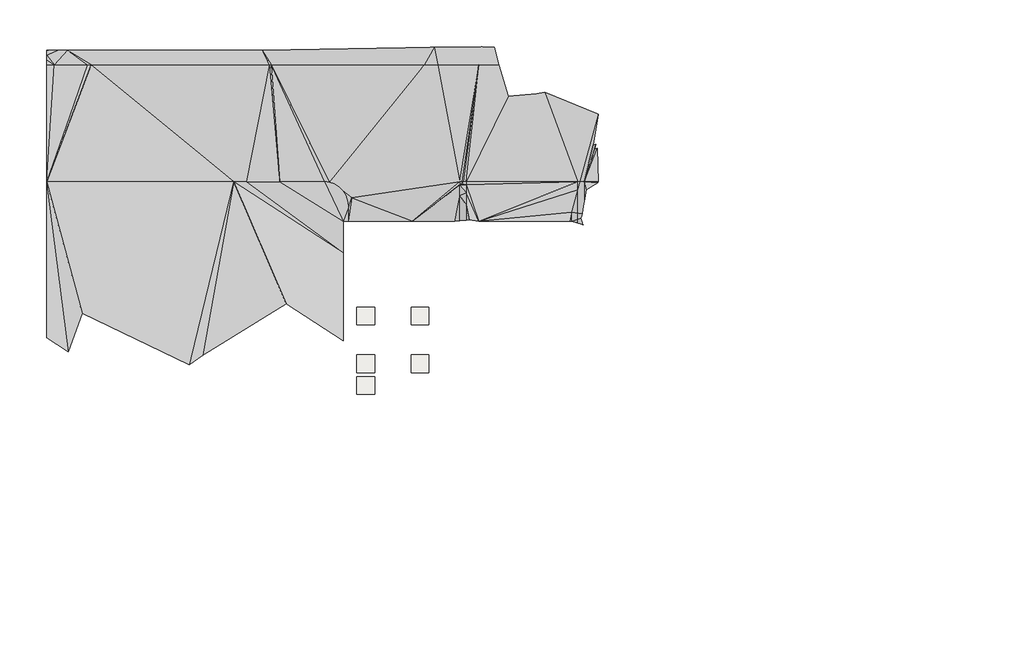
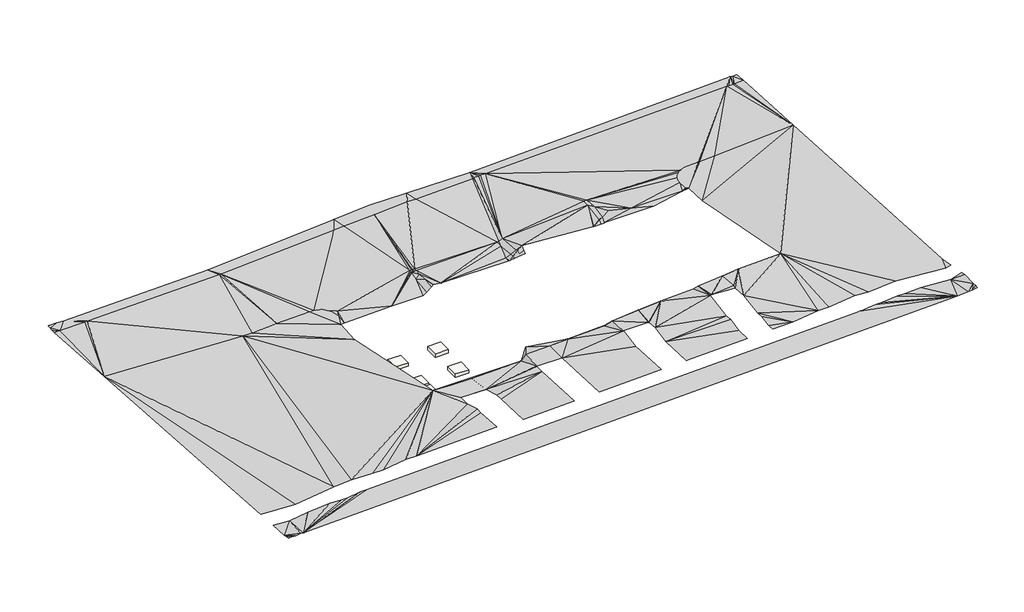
# One storey: 5 slabs, 2 proxies.
"""IFC4 building model written with IfcOpenShell, lengths in millimetres."""

import ifcopenshell
import ifcopenshell.guid

model = None  # the IFC model being written
_history = None  # IfcOwnerHistory: only IFC2X3 demands one
_inside = {}  # id of a spatial element -> (the spatial element, [elements in it])
_under = {}  # id of a project, library or spatial element -> (it, [spatial elements below it])
_declared = {}  # id of a project -> (the project, [libraries it declares])
_typed = {}  # id of a type object -> (the type object, [elements of that type])
_made_of = {}  # id of a material, layer set ... -> (it, [elements and type objects made of it])


def new_model(schema):
    """Start an empty IFC model of exactly this schema.

    Asked for "IFC4X3", IfcOpenShell would pick the latest addendum, in which some entities
    have other attributes; the version numbers below select the first issue.
    IFC2X3 requires an IfcOwnerHistory on every rooted entity: one is made here for all.
    """
    global model, _history
    if schema == "IFC4X3":
        model = ifcopenshell.file(schema_version=(4, 3, 0, 0))
    else:
        model = ifcopenshell.file(schema=schema)
    _inside.clear()
    _under.clear()
    _declared.clear()
    _typed.clear()
    _made_of.clear()
    _history = None
    if model.schema == "IFC2X3":
        org = make("IfcOrganization", Name="unknown")
        user = make(
            "IfcPersonAndOrganization",
            ThePerson=make("IfcPerson", FamilyName="unknown"),
            TheOrganization=org,
        )
        app = make(
            "IfcApplication",
            ApplicationDeveloper=org,
            Version="unknown",
            ApplicationFullName="unknown",
            ApplicationIdentifier="unknown",
        )
        _history = make(
            "IfcOwnerHistory",
            OwningUser=user,
            OwningApplication=app,
            ChangeAction="ADDED",
            CreationDate=0,
        )
    return model


def make(cls, **values):
    """One entity of the class cls with the attributes given. An attribute that is None is left unset."""
    return model.create_entity(
        cls, **{name: value for name, value in values.items() if value is not None}
    )


def rooted(cls, **values):
    """An entity with a GlobalId (a new one), such as an element, a storey or a relation."""
    return make(cls, GlobalId=ifcopenshell.guid.new(), OwnerHistory=_history, **values)


def si_unit(unit_type, name, prefix=None):
    """IfcSIUnit, for example si_unit("LENGTHUNIT", "METRE", prefix="MILLI")."""
    return make("IfcSIUnit", UnitType=unit_type, Prefix=prefix, Name=name)


def assignment(units):
    """IfcUnitAssignment: the units of a project."""
    return None if units is None else make("IfcUnitAssignment", Units=units)


def point(xyz):
    """IfcCartesianPoint."""
    return None if xyz is None else make("IfcCartesianPoint", Coordinates=xyz)


def direction(xyz):
    """IfcDirection."""
    return None if xyz is None else make("IfcDirection", DirectionRatios=xyz)


def frame(location, z_axis=None, x_axis=None):
    """IfcAxis2Placement3D, a coordinate frame: its origin and axes. An axis left out is left unset."""
    return make(
        "IfcAxis2Placement3D",
        Location=point(location),
        Axis=direction(z_axis),
        RefDirection=direction(x_axis),
    )


def origin():
    """The frame at (0, 0, 0) with its axes left unset."""
    return frame((0.0, 0.0, 0.0))


def place(relative_to, where):
    """IfcLocalPlacement: puts the frame where relative to a parent placement (None: the world)."""
    return make(
        "IfcLocalPlacement", PlacementRelTo=relative_to, RelativePlacement=where
    )


def context(
    kind, dimensions, precision=None, world=None, true_north=None, identifier=None
):
    """IfcGeometricRepresentationContext, for example the 3D "Model" context."""
    return make(
        "IfcGeometricRepresentationContext",
        ContextIdentifier=identifier,
        ContextType=kind,
        CoordinateSpaceDimension=dimensions,
        Precision=precision,
        WorldCoordinateSystem=world,
        TrueNorth=true_north,
    )


def project(units=None, contexts=None):
    """IfcProject with its units and contexts."""
    return rooted(
        "IfcProject",
        Name="project",
        RepresentationContexts=contexts,
        UnitsInContext=assignment(units),
    )


def spatial(cls, under=None, at=None, **own):
    """A site, building, storey or space (cls), placed at a placement, below another one or the project."""
    s = rooted(cls, ObjectPlacement=at, **own)
    if under is not None:
        _under.setdefault(under.id(), (under, []))[1].append(s)
    return s


def polyline(points):
    """IfcPolyline through the points."""
    return make("IfcPolyline", Points=[point(p) for p in points])


def point_list(points):
    """IfcCartesianPointList2D or 3D."""
    cls = (
        "IfcCartesianPointList2D" if len(points[0]) == 2 else "IfcCartesianPointList3D"
    )
    return make(cls, CoordList=points)


def outline(outer, holes=None, kind="AREA"):
    """IfcArbitraryClosedProfileDef: a profile drawn as a closed curve; with holes, ...WithVoids."""
    if holes is None:
        return make("IfcArbitraryClosedProfileDef", ProfileType=kind, OuterCurve=outer)
    return make(
        "IfcArbitraryProfileDefWithVoids",
        ProfileType=kind,
        OuterCurve=outer,
        InnerCurves=holes,
    )


def extrude(swept, where, along, depth):
    """IfcExtrudedAreaSolid: the profile swept, set in the frame where, extruded along a direction by depth."""
    return make(
        "IfcExtrudedAreaSolid",
        SweptArea=swept,
        Position=where,
        ExtrudedDirection=direction(along),
        Depth=depth,
    )


def triangles(points, corners, closed=None, point_numbers=None):
    """IfcTriangulatedFaceSet: each triangle names its three corners, points numbered from 1."""
    return make(
        "IfcTriangulatedFaceSet",
        Coordinates=point_list(points),
        Closed=closed,
        CoordIndex=corners,
        PnIndex=point_numbers,
    )


def shape(context_of_items, identifier, shape_type, items):
    """IfcShapeRepresentation: the items that make up one representation, for example the "Body"."""
    return make(
        "IfcShapeRepresentation",
        ContextOfItems=context_of_items,
        RepresentationIdentifier=identifier,
        RepresentationType=shape_type,
        Items=items,
    )


def source(mapping_origin, context_of_items, identifier, shape_type, items):
    """IfcRepresentationMap: a shape defined once, which mapped items show again and again."""
    return make(
        "IfcRepresentationMap",
        MappingOrigin=mapping_origin,
        MappedRepresentation=shape(context_of_items, identifier, shape_type, items),
    )


def transform(
    local_origin,
    x_axis=None,
    y_axis=None,
    z_axis=None,
    scale=None,
    scale2=None,
    scale3=None,
    uniform=True,
):
    """IfcCartesianTransformationOperator3D, or its non-uniform kind. x_axis, y_axis, z_axis: its Axis1, 2, 3."""
    if uniform:
        return make(
            "IfcCartesianTransformationOperator3D",
            Axis1=direction(x_axis),
            Axis2=direction(y_axis),
            LocalOrigin=point(local_origin),
            Scale=scale,
            Axis3=direction(z_axis),
        )
    return make(
        "IfcCartesianTransformationOperator3DnonUniform",
        Axis1=direction(x_axis),
        Axis2=direction(y_axis),
        LocalOrigin=point(local_origin),
        Scale=scale,
        Axis3=direction(z_axis),
        Scale2=scale2,
        Scale3=scale3,
    )


def mapped(mapping_source, mapping_target):
    """IfcMappedItem: shows the shape of a source again, moved by a transform."""
    return make(
        "IfcMappedItem", MappingSource=mapping_source, MappingTarget=mapping_target
    )


def made_of(thing, what):
    """Note that an element or type object is made of a material, layer set ...; save() writes the relation."""
    if what is not None:
        _made_of.setdefault(what.id(), (what, []))[1].append(thing)
    return thing


def element(
    cls,
    number,
    at=None,
    inside=None,
    cuts=None,
    type_object=None,
    material=None,
    context=None,
    identifier="Body",
    shape_type=None,
    held_by="IfcProductDefinitionShape",
    body=None,
    shapes=None,
    **own,
):
    """One element of the class cls, such as IfcWall. Its Tag is "e" and its number.

    at: its placement. inside: the storey or other place that contains it. cuts: it is an
    opening in that element (IfcRelVoidsElement). A single representation is given by context,
    identifier, shape_type and body (its items); several are given by shapes. held_by: the class
    of the entity that holds the representations. save() writes the other relations.
    """
    e = rooted(cls, Tag="e%d" % number, ObjectPlacement=at, **own)
    if body is not None:
        shapes = [shape(context, identifier, shape_type, body)]
    if shapes is not None:
        e.Representation = make(held_by, Representations=shapes)
    if inside is not None:
        _inside.setdefault(inside.id(), (inside, []))[1].append(e)
    if cuts is not None:
        rooted(
            "IfcRelVoidsElement", RelatingBuildingElement=cuts, RelatedOpeningElement=e
        )
    if type_object is not None:
        _typed.setdefault(type_object.id(), (type_object, []))[1].append(e)
    return made_of(e, material)


def aggregate(whole, parts):
    """IfcRelAggregates: a whole, such as a stair, and the parts it consists of."""
    return rooted("IfcRelAggregates", RelatingObject=whole, RelatedObjects=parts)


def save(model, path):
    """Write the relations noted so far, then the file.

    IfcRelAggregates (storeys below a building ...), IfcRelContainedInSpatialStructure (elements
    in a storey), IfcRelDefinesByType, IfcRelAssociatesMaterial and IfcRelDeclares: one each for
    every whole, place, type object, material and project.
    """
    for whole, parts in _under.values():
        aggregate(whole, parts)
    for where, things in _inside.values():
        rooted(
            "IfcRelContainedInSpatialStructure",
            RelatedElements=things,
            RelatingStructure=where,
        )
    for kind, things in _typed.values():
        rooted("IfcRelDefinesByType", RelatedObjects=things, RelatingType=kind)
    for what, things in _made_of.values():
        rooted("IfcRelAssociatesMaterial", RelatedObjects=things, RelatingMaterial=what)
    for by, libraries in _declared.values():
        rooted("IfcRelDeclares", RelatingContext=by, RelatedDefinitions=libraries)
    model.write(path)


def slab_c4e9b2b2(model_context):
    return source(origin(), model_context, "Body", "SweptSolid", [
        extrude(outline(polyline([(558.8, 558.8), (558.8, -558.8), (-558.8, -558.8), (-558.8, 558.8), (558.8, 558.8)])), frame((0.0, 0.0, -304.8), z_axis=(0.0, 0.0, 1.0), x_axis=(1.0, 0.0, 0.0)), (0.0, 0.0, 1.0), 304.8),
    ])


model = new_model("IFC4")

# Units and contexts
model_context = context("Model", 3, world=origin())
ifc_project = project(units=[si_unit("LENGTHUNIT", "METRE", prefix="MILLI")], contexts=[model_context])

# Site, building, storey
site = spatial("IfcSite", under=ifc_project)
building = spatial("IfcBuilding", under=site)
storey = spatial("IfcBuildingStorey", under=building, Name="A - B.O. Footing", Elevation=-3079.75)

# Proxies
placement = place(None, origin())
element("IfcBuildingElementProxy", 1, Name="Building Element Proxy", at=placement, inside=storey, context=model_context, shape_type="Tessellation", body=[
    triangles([(-11201.6941681, 6158.271199, -2871.6253006), (-7176.6433411, 6158.271199, -2743.2), (-4520.8749229, 6158.271199, -2767.9798828), (-4211.1630135, 6182.3737976, -2549.632164), (-4211.1630135, 7751.7419586, -2335.3873924), (-4211.1630135, 8386.4817032, -2161.9181843), (-4211.1630135, 8476.380867, -2146.3489311), (-4211.1630135, 8630.1982224, -2143.0838688), (-4094.3989197, 8630.1982224, -2133.0997398), (-4047.3253395, 8630.1982224, -2130.3448208), (-3996.5336723, 8630.1982224, -2127.3191334), (-3808.1945869, 8630.1982224, -2128.998246), (-3808.1945869, 8428.0088196, -2139.3291561), (-3808.1945869, 7920.9368637, -2139.8403168), (-3808.1945869, 7180.1977753, -2133.6), (-3808.1945869, 6213.7335114, -2265.5384583), (-3621.0487427, 6228.2977386, -2133.6), (-3014.5139626, 6158.271199, -2159.0000484), (2697.0525261, 6158.271199, -2196.2112946), (2817.8367233, 6158.271199, -2192.2236019), (3117.1690338, 6056.6710052, -2059.970192), (3189.5053162, 6056.6710052, -2024.2598717), (3189.5053162, 6273.0822144, -1991.2050579), (3189.5053162, 6659.5336258, -2053.2601364), (3189.5053162, 8103.6867554, -2193.8490841), (3189.5053162, 8630.1982224, -2162.5352978), (3333.231427, 8630.1982224, -2158.982753), (3599.3369865, 8630.1982224, -1999.5289684), (3599.3369865, 6602.7870895, -1802.1594749), (3599.3369865, 6399.6826263, -1769.5456226), (3599.3369865, 6056.6710052, -1821.9374828), (3961.2590813, 6056.6710052, -1643.2667027), (4053.3328217, 6539.9258102, -1524.0), (9895.2041473, 6158.271199, -1627.1896317), (9945.452243, 6158.271199, -1624.6261253), (10520.8368896, 6089.2684341, -1561.8021984), (10520.8368896, 6311.6513718, -1338.3156944), (10520.8368896, 6319.3747375, -1325.3773853), (10520.8368896, 8018.6099716, -1018.1334211), (10520.8368896, 8630.1982224, -1066.2368803), (10784.1057037, 8630.1982224, -1070.1500135), (10784.1057037, 7561.2913742, -986.0768749), (10784.1057037, 6387.1676926, -1198.3738729), (10784.1057037, 6381.830809, -1207.3138796), (10784.1057037, 6057.6959427, -1533.0570053), (10792.6528564, 6056.6710052, -1532.1237774), (13054.5415375, 6056.6710052, -1012.5556366), (17386.4608429, 6056.6710052, -1004.9598066), (17781.8053162, 6124.8342865, -989.970896), (17781.8053162, 6169.4460983, -980.6147083), (17781.8053162, 6322.3216507, -992.6389017), (17781.8053162, 7106.1982224, -1010.5865707), (17820.0146118, 7445.3199646, -1017.1168407), (17932.7286621, 7767.4369308, -1020.8511332), (18114.2943237, 8056.3966187, -1021.6021048), (18355.6063385, 8297.7092148, -1019.3321852), (18644.5666077, 8479.2748764, -1014.1551756), (18966.6829926, 8591.9883453, -1006.3305805), (19305.8053162, 8630.1982224, -996.2509632), (20215.27771, 8630.1982224, -966.8725965), (20268.4814392, 8630.1982224, -967.3764175), (20348.3626099, 8630.1982224, -966.8725965), (21584.380188, 8630.1982224, -914.4), (28255.124176, 8630.1982224, -441.583148), (28255.124176, 15945.397641, -861.4523598), (27508.1116333, 15945.397641, -914.4), (27369.6991516, 15945.397641, -920.2760221), (27053.4207825, 15945.397641, -922.2708858), (26842.773175, 15945.397641, -920.2760221), (6405.9386398, 15945.397641, -1580.4398689), (5957.5590317, 15945.397641, -1573.7753048), (5838.3982819, 15945.397641, -1625.7116695), (5424.1840302, 15945.397641, -1618.1955585), (5330.121167, 15945.397641, -1674.55956), (509.2640096, 15945.397641, -1793.7163857), (-199.4013825, 15945.397641, -1787.3986027), (-2999.0573479, 15945.397641, -1954.173452), (-5593.7713531, 15945.397641, -2106.024939), (-6421.0162079, 15945.397641, -2176.7600109), (-16023.468457, 15945.397641, -2743.2), (-16145.231955, 15945.397641, -2755.669297), (-27314.7373901, 15945.397641, -3000.5183052), (-27547.5534119, 15945.397641, -3013.8067383), (-29640.186145, 15945.397641, -3048.0), (-30114.075824, 15945.397641, -3027.3582367), (-30114.075824, 8630.1982224, -2536.6986511), (-18375.7667358, 8630.1982224, -3048.0), (-17583.5650909, 8630.1982224, -3035.0554413), (-15504.5280396, 8630.1982224, -2916.3917542), (-12732.8634979, 8630.1982224, -2855.6335442), (-12680.6713348, 8624.3177673, -2854.630117), (-12393.7411743, 8591.9883453, -2827.2501022), (-12071.6236267, 8479.2748764, -2801.2487823), (-11782.6645203, 8297.7092148, -2782.9106575), (-11541.3513428, 8056.3966187, -2773.1548576), (-11359.7868439, 7767.4369308, -2772.4708878), (-11247.0727936, 7445.3199646, -2780.8927574), (-11208.8634979, 7106.1982224, -2797.9983994), (-11208.8634979, 6975.1591278, -2806.1202873), (-11208.8634979, 6158.271199, -2872.0005684), (11372.7604706, 6538.7491379, -914.4), (2809.6410027, 6712.1309967, -2286.0), (-10974.538266, 7603.1690506, -2743.2)], [[100, 1, 99], [103, 99, 1], [103, 2, 8], [1, 2, 103], [3, 5, 2], [95, 96, 103], [79, 94, 95], [97, 98, 103], [103, 98, 99], [97, 103, 96], [95, 103, 79], [15, 17, 18], [16, 17, 15], [102, 20, 23], [102, 18, 19], [102, 19, 20], [3, 4, 5], [5, 6, 2], [18, 13, 14], [14, 15, 18], [26, 18, 25], [26, 13, 18], [25, 102, 24], [25, 18, 102], [6, 7, 2], [23, 20, 21], [87, 82, 86], [88, 81, 87], [91, 92, 80], [89, 81, 88], [86, 83, 84], [84, 85, 86], [80, 90, 91], [80, 81, 89], [82, 87, 81], [82, 83, 86], [90, 80, 89], [92, 79, 80], [8, 79, 103], [8, 2, 7], [94, 79, 93], [8, 9, 77], [13, 26, 12], [77, 9, 10], [8, 78, 79], [10, 11, 77], [8, 77, 78], [12, 76, 77], [12, 26, 76], [26, 75, 76], [12, 77, 11], [26, 74, 75], [93, 79, 92], [32, 30, 31], [35, 36, 37], [35, 38, 39], [24, 102, 23], [29, 33, 28], [33, 34, 39], [30, 33, 29], [30, 32, 33], [38, 35, 37], [23, 21, 22], [44, 45, 46], [47, 101, 46], [48, 49, 50], [47, 48, 52], [50, 51, 48], [101, 42, 43], [101, 43, 44], [52, 53, 47], [101, 44, 46], [41, 42, 47], [47, 42, 101], [51, 52, 48], [54, 47, 53], [39, 34, 35], [39, 40, 28], [40, 41, 70], [55, 56, 41], [54, 55, 41], [47, 54, 41], [70, 41, 57], [27, 28, 74], [74, 28, 73], [27, 74, 26], [73, 28, 72], [72, 28, 71], [28, 70, 71], [28, 40, 70], [41, 56, 57], [28, 33, 39], [58, 69, 70], [69, 62, 63], [62, 69, 61], [69, 63, 64], [59, 60, 69], [60, 61, 69], [59, 69, 58], [64, 68, 69], [64, 67, 68], [66, 67, 64], [64, 65, 66], [58, 70, 57]], closed=False),
])
element("IfcBuildingElementProxy", 2, Name="Building Element Proxy", at=placement, inside=storey, context=model_context, shape_type="Tessellation", body=[
    triangles([(28255.124176, -18439.7012054, 1387.3884258), (28255.124176, -18178.375296, 1434.0281662), (28255.124176, -17829.8814514, 1390.2421761), (28255.124176, -16610.1303223, 1464.8863117), (28255.124176, -16153.4686615, 1376.3459312), (27309.7656006, -16153.4686615, 1048.3476379), (24792.5332031, -16153.4686615, 1250.9332375), (23451.7243469, -16153.4686615, 1158.3478277), (22772.1448975, -16153.4686615, 1192.2349308), (21484.7188293, -16153.4686615, 1043.3249067), (20963.5343628, -16153.4686615, 1043.3249067), (19698.5511108, -16153.4686615, 894.4148827), (-22215.3556274, -16153.4686615, -469.2876343), (-22736.5424194, -16153.4686615, -469.2876343), (-23789.0828247, -16153.4686615, -605.7884957), (-24310.2672913, -16153.4686615, -605.7884957), (-25312.6944763, -16153.4686615, -579.5293064), (-27179.4782043, -16153.4686615, -739.4750668), (-28718.970282, -16153.4686615, -935.1278046), (-30114.075824, -16153.4686615, -874.3592754), (-30114.075824, -17801.7296814, -763.803887), (-30114.075824, -18439.7012054, -628.8651031), (-29962.4874023, -18439.7012054, -609.6), (-29665.9473633, -18439.7012054, -633.8685041), (-29520.3376465, -18439.7012054, -633.8685041), (-29074.8973938, -18439.7012054, -571.7160479), (-28898.1035339, -18439.7012054, -571.7160479), (26563.7460205, -18439.7012054, 1232.7796944), (27463.3469238, -18439.7012054, 1338.6778816), (27833.9894165, -18439.7012054, 1338.6778816), (28255.124176, -14542.7286072, 1064.0460257), (28255.124176, -13256.3489868, 814.635014), (28255.124176, 8630.1982224, -441.583148), (21584.380188, 8630.1982224, -914.4), (20348.3626099, 8630.1982224, -966.8725965), (20268.4814392, 8630.1982224, -967.3764175), (20215.27771, 8630.1982224, -966.8725965), (19305.8053162, 8630.1982224, -996.2509632), (18966.6829926, 8591.9883453, -1006.3305805), (18644.5666077, 8479.2748764, -1014.1551756), (18355.6063385, 8297.7092148, -1019.3321852), (18114.2943237, 8056.3966187, -1021.6021048), (17932.7286621, 7767.4369308, -1020.8511332), (17820.0146118, 7445.3199646, -1017.1168407), (17781.8053162, 7106.1982224, -1010.5865707), (17781.8053162, 6322.3216507, -992.6389017), (17781.8053162, 6169.4460983, -980.6147083), (17781.8053162, 6124.8342865, -989.970896), (17975.7365021, 6158.271199, -982.6182924), (17975.7365021, 4173.8961021, -914.4), (17975.7365021, -7354.5289948, 1320.8000484), (14389.5193542, -7354.5289948, 1212.8363623), (14367.48349, -7354.5289948, 1211.9542213), (10603.9399567, -7306.7743515, 711.1999758), (7833.6544006, -7354.5289948, 609.6), (3021.339418, -7354.5289948, 96.9306569), (3017.7951576, -7354.5289948, 95.6867012), (-49.8231671, -7354.5289948, -5.5908941), (-64.3630999, -7354.5289948, -5.8764389), (-2900.2439026, -6086.4680237, -507.9999879), (-4011.0278458, -7354.5289948, -609.6), (-11513.6634979, -7354.5289948, -609.6), (-11513.6634979, 4173.8961021, -3048.0), (-11513.6634979, 6158.271199, -2887.9641289), (-11208.8634979, 6158.271199, -2872.0005684), (-11208.8634979, 6975.1591278, -2806.1202873), (-11208.8634979, 7106.1982224, -2797.9983994), (-11247.0727936, 7445.3199646, -2780.8927574), (-11359.7868439, 7767.4369308, -2772.4708878), (-11541.3513428, 8056.3966187, -2773.1548576), (-11782.6645203, 8297.7092148, -2782.9106575), (-12071.6236267, 8479.2748764, -2801.2487823), (-12393.7411743, 8591.9883453, -2827.2501022), (-12680.6713348, 8624.3177673, -2854.630117), (-12732.8634979, 8630.1982224, -2855.6335442), (-15504.5280396, 8630.1982224, -2916.3917542), (-17583.5650909, 8630.1982224, -3035.0554413), (-18375.7667358, 8630.1982224, -3048.0), (-30114.075824, 8630.1982224, -2536.6986511), (-30114.075824, -14324.6686615, -997.0241718), (-27171.0531372, -14324.6686615, -1125.2174372), (-23923.4443909, -14324.6686615, -712.4814383), (-22444.6602356, -14324.6686615, -585.7792883), (-20640.3726929, -14324.6686615, -633.0436272), (-19702.2811157, -14324.6686615, -633.0436272), (-17807.7932648, -14324.6686615, -387.3532459), (-16869.7016876, -14324.6686615, -387.3532459), (-10116.6627228, -14324.6686615, -167.6376964), (-10116.6627228, -12014.3887482, -283.8474453), (-10116.6627228, -11470.8940155, -259.4976417), (-10116.6627228, -10035.2060669, -696.9708298), (-10116.6627228, -9081.728801, -711.1808636), (-7985.9369659, -9081.728801, -711.1808636), (-7983.0627228, -9081.728801, -710.8081392), (-7983.0627228, -10679.2272217, -224.0291671), (-7983.0627228, -11284.4635345, -251.1451355), (-7983.0627228, -14568.1293823, -85.9729954), (-3674.2234039, -14568.1293823, 54.2185519), (-3674.2234039, -9810.3686279, -185.1023098), (-3674.2234039, -9080.4428329, -152.4), (-3674.2234039, -9056.3291885, -151.2558202), (-3644.4057472, -9056.3291885, -151.3042184), (-1541.4877407, -9056.3291885, -151.3042184), (-1540.6234039, -9056.3291885, -151.2619336), (-1540.6234039, -9080.4428329, -152.4), (-1540.6234039, -14542.7286072, 122.3592919), (3688.6981018, -14542.7286072, 292.4994427), (3688.6981018, -10821.9010712, 105.3374929), (3688.6981018, -9101.1816833, 458.9185724), (3688.6981018, -9080.4428329, 457.2), (3688.6981018, -9056.3291885, 458.4951244), (5733.7442047, -9056.3291885, 458.4951244), (5772.9889023, -9056.3291885, 458.3175917), (5800.3099091, -9056.3291885, 459.3293032), (5822.2981018, -9056.3291885, 461.8725346), (5822.2981018, -9080.4428329, 463.0757678), (5822.2981018, -9103.3094604, 459.0949061), (5822.2981018, -9972.2029358, 531.0980693), (5822.2981018, -11532.4274689, 210.4962177), (5822.2981018, -14542.7286072, 361.9178435), (11003.8981018, -14542.7286072, 530.5053366), (11003.8981018, -13257.9930725, 465.8816648), (11003.8981018, -12087.5424225, 706.391185), (11003.8981018, -11435.7147675, 652.3758047), (11003.8981018, -9080.4428329, 1062.4052828), (11003.8981018, -9060.0028015, 1061.3853596), (11003.8981018, -9056.3291885, 1060.6850389), (11035.9391693, -9056.3291885, 1061.9654114), (11038.6227264, -9056.3291885, 1067.1182219), (11069.5545593, -9056.3291885, 1066.8), (11168.784549, -9056.3291885, 1058.0507521), (13137.4981018, -9056.3291885, 959.8810175), (13137.4981018, -10344.0360535, 1089.2088793), (13137.4981018, -12396.1166107, 731.9620079), (13137.4981018, -12958.5636749, 778.5707182), (13137.4981018, -13968.5206329, 571.0403624), (13137.4981018, -14542.7286072, 599.9237011), (14861.754483, -14542.7286072, 656.0237652), (17017.968219, -14542.7286072, 909.8467169), (17906.3477142, -14542.7286072, 909.8467169), (20100.8149292, -14542.7286072, 1163.6696686), (21259.1837585, -14542.7286072, 1105.9077873), (23544.646582, -14542.7286072, 1263.7230091), (27835.3660767, -14542.7286072, 918.4081129), (28255.124176, 16867.8820312, -914.4), (27909.0359985, 16867.8820312, -916.5828609), (27678.5337891, 16867.8820312, -914.4), (5531.9419876, 16684.7292572, -1625.6000484), (279.4363047, 16867.8820312, -1744.5329052), (-2834.0392227, 17096.9540955, -1926.4405518), (-5819.6052429, 17047.207132, -2101.9468449), (-16581.7785645, 16867.8820312, -2743.2), (-28804.0650879, 16867.8820312, -3011.12696), (-29412.7465393, 16867.8820312, -3005.2241226), (-30001.3594482, 16867.8820312, -2999.5157501), (-30114.075824, 16867.8820312, -2999.1628647), (-30114.075824, 16820.8988525, -3002.2118065), (-30114.075824, 16558.5555634, -3023.369236), (-30114.075824, 16253.1451355, -3048.0), (-30114.075824, 15945.397641, -3027.3582367), (-29640.186145, 15945.397641, -3048.0), (-27547.5534119, 15945.397641, -3013.8067383), (-27314.7373901, 15945.397641, -3000.5183052), (-16145.231955, 15945.397641, -2755.669297), (-16023.468457, 15945.397641, -2743.2), (-6421.0162079, 15945.397641, -2176.7600109), (-5593.7713531, 15945.397641, -2106.024939), (-2999.0573479, 15945.397641, -1954.173452), (-199.4013825, 15945.397641, -1787.3986027), (509.2640096, 15945.397641, -1793.7163857), (5330.121167, 15945.397641, -1674.55956), (5424.1840302, 15945.397641, -1618.1955585), (5838.3982819, 15945.397641, -1625.7116695), (5957.5590317, 15945.397641, -1573.7753048), (6405.9386398, 15945.397641, -1580.4398689), (26842.773175, 15945.397641, -920.2760221), (27053.4207825, 15945.397641, -922.2708858), (27369.6991516, 15945.397641, -920.2760221), (27508.1116333, 15945.397641, -914.4), (28255.124176, 15945.397641, -861.4523598), (3117.1690338, 6056.6710052, -2059.970192), (3909.9877922, 5787.5705704, -1709.6803814), (3961.2590813, 6056.6710052, -1643.2667027), (3599.3369865, 6056.6710052, -1821.9374828), (3599.3369865, 6399.6826263, -1769.5456226), (3599.3369865, 6602.7870895, -1802.1594749), (3599.3369865, 8630.1982224, -1999.5289684), (3333.231427, 8630.1982224, -2158.982753), (3189.5053162, 8630.1982224, -2162.5352978), (3189.5053162, 8103.6867554, -2193.8490841), (3189.5053162, 6659.5336258, -2053.2601364), (3189.5053162, 6273.0822144, -1991.2050579), (3189.5053162, 6056.6710052, -2024.2598717), (10792.6528564, 6056.6710052, -1532.1237774), (14681.5259491, 5590.3000534, -1107.5130672), (17386.4608429, 6056.6710052, -1004.9598066), (13054.5415375, 6056.6710052, -1012.5556366), (-4211.1630135, 6182.3737976, -2549.632164), (-3808.1945869, 6213.7335114, -2265.5384583), (-3808.1945869, 7180.1977753, -2133.6), (-3808.1945869, 7920.9368637, -2139.8403168), (-3808.1945869, 8428.0088196, -2139.3291561), (-3808.1945869, 8630.1982224, -2128.998246), (-3996.5336723, 8630.1982224, -2127.3191334), (-4047.3253395, 8630.1982224, -2130.3448208), (-4094.3989197, 8630.1982224, -2133.0997398), (-4211.1630135, 8630.1982224, -2143.0838688), (-4211.1630135, 8476.380867, -2146.3489311), (-4211.1630135, 8386.4817032, -2161.9181843), (-4211.1630135, 7751.7419586, -2335.3873924), (10520.8368896, 6089.2684341, -1561.8021984), (10784.1057037, 6057.6959427, -1533.0570053), (10784.1057037, 6381.830809, -1207.3138796), (10784.1057037, 6387.1676926, -1198.3738729), (10784.1057037, 7561.2913742, -986.0768749), (10784.1057037, 8630.1982224, -1070.1500135), (10520.8368896, 8630.1982224, -1066.2368803), (10520.8368896, 8018.6099716, -1018.1334211), (10520.8368896, 6319.3747375, -1325.3773853), (10520.8368896, 6311.6513718, -1338.3156944), (-56.8337357, -7389.0164246, 0.0), (3018.3119865, -7389.4541885, 101.600003), (14378.7909393, -7389.0164246, 1219.2), (-4066.6945061, 8495.0326355, -2133.6), (-3692.7795387, -7475.1344238, -76.2), (-1600.7361591, -7403.5771637, -76.2), (3550.1867889, -7661.6689682, 533.4), (3637.8980049, -9080.4428329, 457.2), (5873.1322083, -7436.3094681, 533.4), (10842.6881744, -7611.8202667, 1086.1800671), (13021.6737762, -7354.5289948, 1066.8), (13252.1678467, -8660.4114944, 914.4), (-10091.6572723, -7450.2138519, -609.6), (-8262.8572723, -7450.2138519, -609.6), (-7983.0627228, -9080.4428329, -711.1999758), (-10116.6627228, -9080.4428329, -711.1999758)], [[21, 22, 23], [21, 23, 24], [19, 20, 21], [25, 26, 21], [21, 24, 25], [19, 21, 26], [27, 18, 19], [18, 27, 17], [27, 19, 26], [16, 17, 27], [14, 15, 27], [16, 27, 15], [27, 13, 14], [81, 79, 80], [83, 78, 82], [83, 84, 62], [79, 81, 82], [62, 84, 85], [62, 86, 87], [88, 89, 87], [90, 87, 89], [62, 78, 83], [62, 233, 234], [91, 62, 87], [87, 90, 91], [92, 62, 91], [62, 85, 86], [78, 62, 63], [27, 12, 13], [95, 99, 94], [96, 99, 95], [92, 236, 62], [236, 92, 93], [234, 236, 93], [235, 93, 94], [96, 97, 98], [99, 100, 94], [99, 96, 98], [94, 100, 235], [100, 101, 235], [101, 102, 225], [228, 221, 105], [234, 93, 235], [61, 235, 101], [233, 236, 234], [226, 102, 103], [102, 226, 225], [101, 225, 61], [235, 61, 234], [60, 226, 59], [60, 61, 225], [226, 60, 225], [103, 104, 226], [62, 234, 61], [221, 59, 226], [104, 105, 221], [222, 227, 56], [222, 221, 228], [222, 228, 227], [221, 222, 58], [59, 221, 58], [58, 222, 57], [222, 56, 57], [221, 226, 104], [105, 106, 108], [236, 233, 62], [28, 12, 27], [74, 72, 73], [71, 72, 74], [77, 63, 76], [64, 75, 76], [64, 74, 75], [77, 78, 63], [64, 66, 67], [66, 64, 65], [67, 68, 74], [74, 70, 71], [70, 74, 69], [69, 74, 68], [67, 74, 64], [79, 82, 78], [161, 159, 160], [161, 158, 159], [156, 157, 155], [158, 155, 157], [154, 155, 158], [162, 163, 153], [164, 165, 152], [163, 164, 152], [161, 154, 158], [154, 161, 153], [153, 161, 162], [163, 152, 153], [165, 151, 152], [64, 76, 63], [201, 209, 210], [208, 209, 224], [204, 224, 202], [202, 224, 209], [202, 209, 201], [208, 224, 206], [210, 198, 200], [185, 191, 192], [193, 181, 182], [200, 201, 210], [188, 190, 187], [190, 191, 186], [199, 200, 198], [205, 206, 224], [204, 205, 224], [166, 151, 165], [151, 166, 167], [150, 151, 167], [206, 207, 208], [188, 189, 190], [168, 150, 167], [168, 169, 150], [148, 149, 170], [150, 169, 149], [169, 170, 149], [204, 202, 203], [184, 192, 193], [229, 56, 227], [105, 108, 228], [108, 109, 228], [55, 116, 117], [117, 118, 55], [110, 228, 109], [120, 121, 122], [120, 122, 119], [124, 118, 119], [118, 124, 125], [123, 124, 119], [119, 122, 123], [55, 118, 125], [114, 115, 229], [112, 229, 227], [111, 228, 110], [113, 229, 112], [229, 113, 114], [227, 111, 112], [229, 115, 55], [55, 56, 229], [130, 131, 230], [115, 116, 55], [131, 231, 230], [230, 127, 128], [126, 127, 55], [128, 129, 230], [230, 129, 130], [131, 132, 232], [55, 125, 126], [230, 54, 127], [108, 106, 107], [8, 28, 7], [28, 8, 9], [7, 28, 6], [11, 12, 28], [9, 10, 28], [11, 28, 10], [3, 29, 30], [1, 2, 30], [3, 30, 2], [5, 6, 4], [3, 4, 6], [6, 29, 3], [29, 6, 28], [136, 137, 138], [136, 138, 135], [133, 134, 139], [138, 134, 135], [223, 132, 133], [132, 223, 232], [139, 134, 138], [143, 51, 142], [32, 143, 144], [32, 144, 31], [51, 139, 140], [141, 51, 140], [51, 141, 142], [139, 51, 133], [231, 131, 232], [32, 51, 143], [182, 184, 193], [184, 182, 183], [220, 213, 219], [220, 211, 212], [231, 223, 53], [54, 55, 127], [195, 197, 194], [231, 53, 54], [220, 212, 213], [53, 223, 52], [230, 231, 54], [232, 223, 231], [187, 190, 186], [191, 185, 186], [171, 172, 148], [148, 173, 174], [173, 148, 172], [171, 148, 170], [215, 218, 219], [218, 215, 216], [174, 175, 148], [216, 217, 218], [219, 214, 215], [219, 213, 214], [148, 175, 147], [192, 184, 185], [46, 47, 49], [49, 45, 46], [49, 47, 48], [45, 39, 40], [45, 49, 38], [50, 34, 49], [40, 41, 45], [44, 45, 43], [45, 42, 43], [41, 42, 45], [50, 51, 33], [52, 223, 51], [45, 38, 39], [49, 37, 38], [49, 36, 37], [35, 36, 49], [34, 35, 49], [147, 175, 176], [177, 178, 147], [178, 179, 147], [147, 179, 146], [180, 145, 146], [179, 180, 146], [177, 147, 176], [50, 33, 34], [51, 32, 33], [196, 197, 195], [223, 133, 51], [228, 111, 227]], closed=False),
])

# Slabs
slab_shape = slab_c4e9b2b2(model_context)
element("IfcSlab", 3, ObjectType="Footing-Rectangular : 3'8\" x 3'8\" x 1'", at=placement, inside=storey, context=model_context, shape_type="MappedRepresentation", body=[
    mapped(slab_shape, transform((-10091.2629486, -2782.5289462, -3079.75), x_axis=(1.0, 0.0, 0.0), y_axis=(0.0, 1.0, 0.0), z_axis=(0.0, 0.0, 1.0))),
])
element("IfcSlab", 4, ObjectType="Footing-Rectangular : 3'8\" x 3'8\" x 1'", at=placement, inside=storey, context=model_context, shape_type="MappedRepresentation", body=[
    mapped(slab_shape, transform((-6700.3629486, -2782.5289462, -3079.75), x_axis=(1.0, 0.0, 0.0), y_axis=(0.0, 1.0, 0.0), z_axis=(0.0, 0.0, 1.0))),
])
element("IfcSlab", 5, ObjectType="Footing-Rectangular : 3'8\" x 3'8\" x 1'", at=placement, inside=storey, context=model_context, shape_type="MappedRepresentation", body=[
    mapped(slab_shape, transform((-10091.2629486, -4154.1289462, -3079.75), x_axis=(1.0, 0.0, 0.0), y_axis=(0.0, 1.0, 0.0), z_axis=(0.0, 0.0, 1.0))),
])
element("IfcSlab", 6, ObjectType="Footing-Rectangular : 3'8\" x 3'8\" x 1'", at=placement, inside=storey, context=model_context, shape_type="MappedRepresentation", body=[
    mapped(slab_shape, transform((-10091.2629486, 201.9710538, -3079.75), x_axis=(1.0, 0.0, 0.0), y_axis=(0.0, 1.0, 0.0), z_axis=(0.0, 0.0, 1.0))),
])
element("IfcSlab", 7, ObjectType="Footing-Rectangular : 3'8\" x 3'8\" x 1'", at=placement, inside=storey, context=model_context, shape_type="MappedRepresentation", body=[
    mapped(slab_shape, transform((-6700.3629486, 201.9710538, -3079.75), x_axis=(1.0, 0.0, 0.0), y_axis=(0.0, 1.0, 0.0), z_axis=(0.0, 0.0, 1.0))),
])

save(model, "model.ifc")
